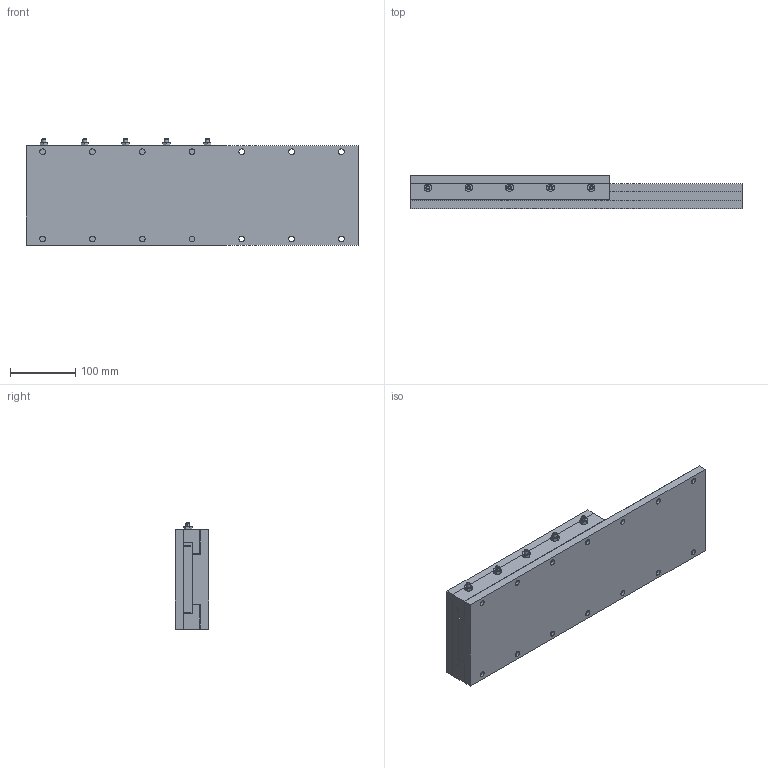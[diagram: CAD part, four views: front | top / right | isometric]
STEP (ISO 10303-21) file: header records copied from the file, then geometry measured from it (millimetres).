
FILE_DESCRIPTION (( 'STEP AP214' ), '1' );
FILE_NAME ('SW06-SL12-BL20.STEP', '2010-10-04T18:00:56', ( ' ' ), ( '' ), 'SwSTEP 2.0', 'SolidWorks 2010', '' );
FILE_SCHEMA (( 'AUTOMOTIVE_DESIGN' ));
Length unit declared in the file: inch
Products named in the file (11): _SSCUPSOC_SSCUPSKT 0.25-28x1.25-HX-N; SW06-SL12-BL20; Gen2 Hardplate_06x20 HPLATE; Gen2 Baseplate_06x20 BASE; Gen2 BASE_06x20 BASE; Gen2 Gib_06x12 GIB; Gen2 Top plate_06x12 TPLATE; Gen2 SADDLE_06x12 SADDLE; _MSHXNUT_MSHXNUT 0.250-28-D-N; Gen2 Bar_06x12 BAR; Gen2 Adj Gib_06x12 ADJ GIB
Assembly tree (18 placements, depth 3):
  SW06-SL12-BL20
    Gen2 SADDLE_06x12 SADDLE
      Gen2 Adj Gib_06x12 ADJ GIB
      Gen2 Gib_06x12 GIB
      _SSCUPSOC_SSCUPSKT 0.25-28x1.25-HX-N  x5
      _MSHXNUT_MSHXNUT 0.250-28-D-N  x5
      Gen2 Top plate_06x12 TPLATE
      Gen2 Bar_06x12 BAR
    Gen2 BASE_06x20 BASE
      Gen2 Hardplate_06x20 HPLATE
      Gen2 Baseplate_06x20 BASE
Bounding box: 508 x 50.8 x 162.72 mm (x, y, z)
Volume: 3169379.1 mm3; surface area: 611846.7 mm2
Topology: 21 solids, 21 shells, 405 faces, 912 edges, 563 vertices
Faces by surface type: plane 177, cylinder 118, cone 110
Entity records: 7563 total; most frequent: CARTESIAN_POINT 1241, DIRECTION 1212, ORIENTED_EDGE 1052, EDGE_CURVE 526, AXIS2_PLACEMENT_3D 458, VERTEX_POINT 343, EDGE_LOOP 301, VECTOR 296
